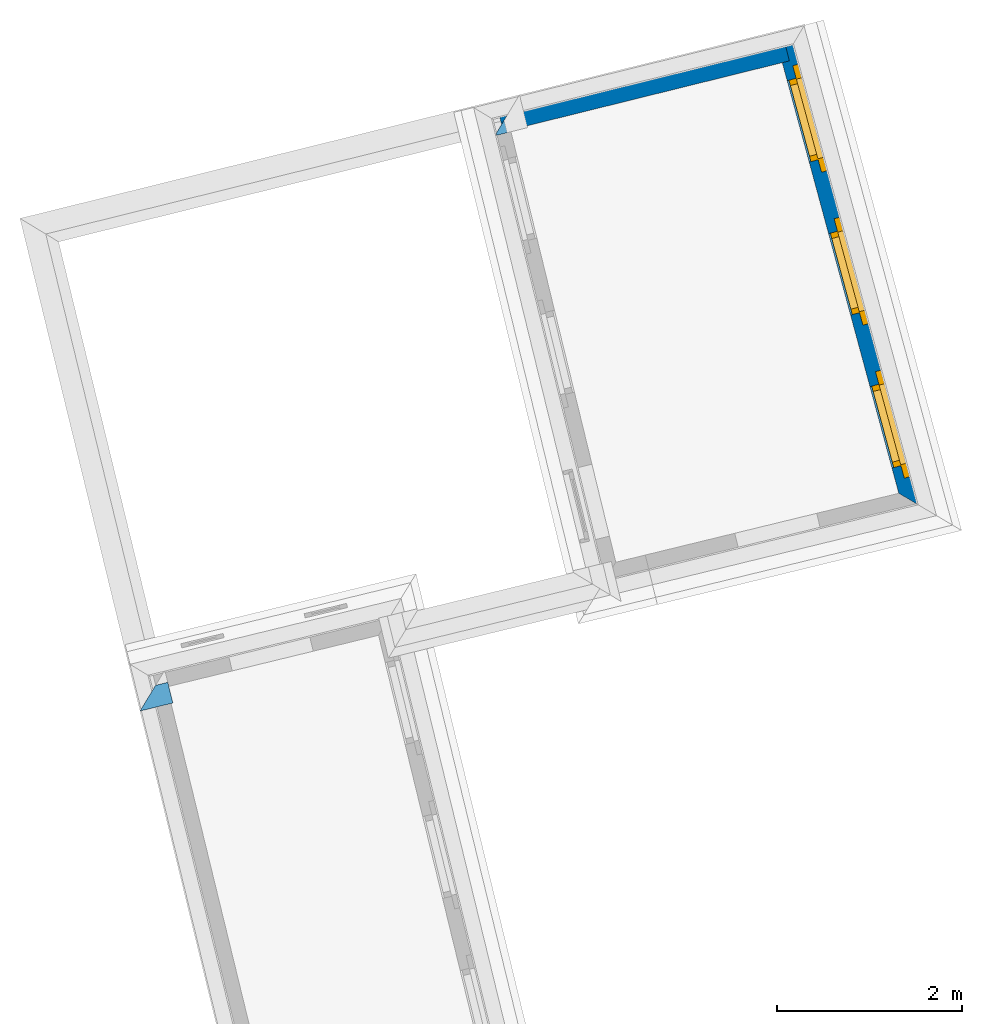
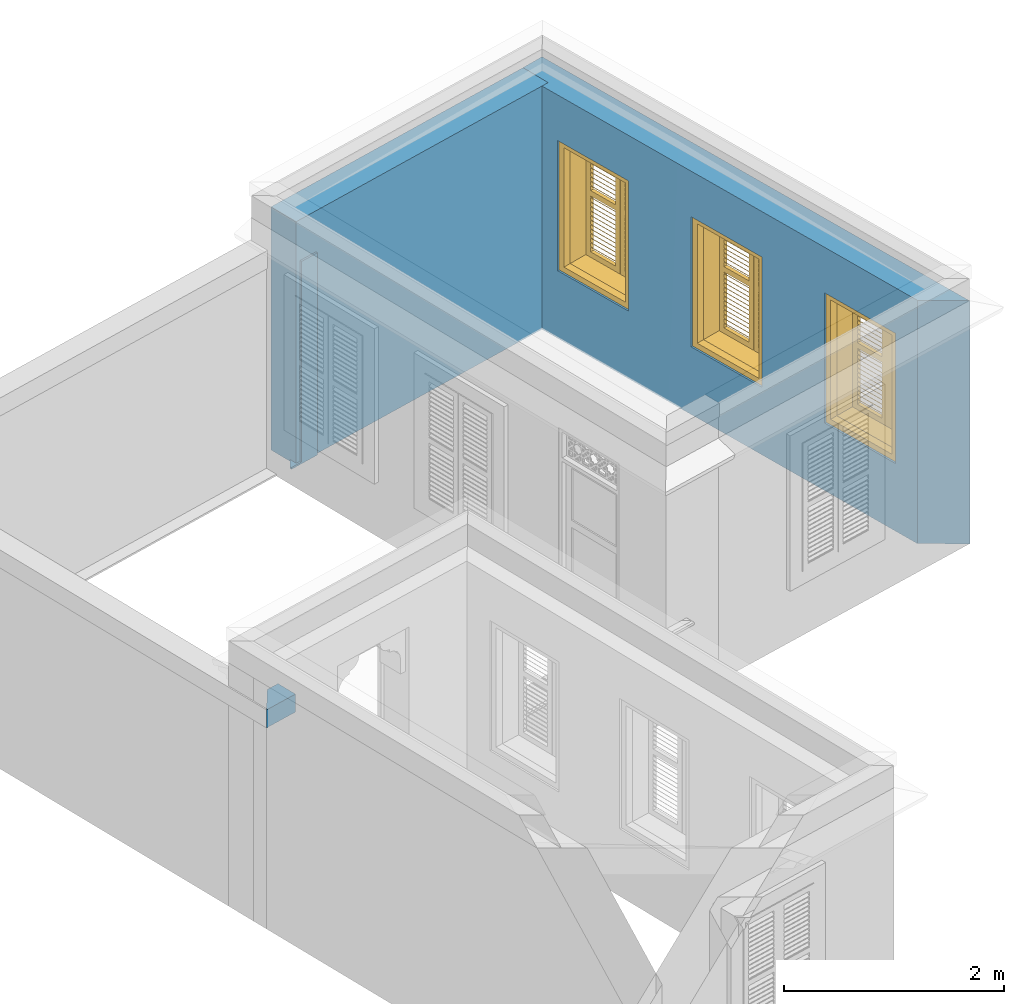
# One storey, part 5 of 7: 4 walls, 3 windows, 3 openings.
"""IFC4 building model written with IfcOpenShell, lengths in metres."""

from ifc_helpers import new_model, si_unit, frame, origin, origin_with_axes, place, context, subcontext, project, spatial, polyline, outline, extrude, clip, halfspace, faceted_brep, source, transform, mapped, material, layer, layer_set, layer_usage, material_profile, profile_set, profile_usage, type_object, type_shapes, element, fill, save


model = new_model("IFC4")

# Units and contexts
model_context = context("Model", 3, world=origin_with_axes())
body_context = subcontext(model_context, "Body", "Model", "MODEL_VIEW")
ifc_project = project(units=[si_unit("PLANEANGLEUNIT", "RADIAN"), si_unit("MASSUNIT", "GRAM", prefix="KILO"), si_unit("FORCEUNIT", "NEWTON", prefix="KILO"), si_unit("LENGTHUNIT", "METRE"), si_unit("AREAUNIT", "SQUARE_METRE"), si_unit("VOLUMEUNIT", "CUBIC_METRE")], contexts=[model_context, model_context])

# Site, building, storey
site_placement = place(None, origin_with_axes())
site = spatial("IfcSite", under=ifc_project, at=site_placement, Name="Site plot-4", CompositionType="ELEMENT")
building_placement = place(None, origin_with_axes())
building = spatial("IfcBuilding", under=site, at=building_placement, Name="Building plot-4", CompositionType="ELEMENT")
storey_placement = place(None, frame((0.0, 0.0, 5.4), z_axis=(0.0, 0.0, 1.0), x_axis=(1.0, 0.0, 0.0)))
storey = spatial("IfcBuildingStorey", under=building, at=storey_placement, Name="plot-4 2", CompositionType="ELEMENT", Elevation=5.4)

# Wall, openings, windows
ifc_material_1 = material(Name="Masonry")
ifc_layer_1 = layer(ifc_material_1, 0.33, ventilated=False)
ifc_layer_set_1 = layer_set([ifc_layer_1], Name="exterior_0.08_0.25")
ifc_layer_usage_1 = layer_usage(ifc_layer_set_1, "AXIS2", "POSITIVE", -0.25)
wall_type_1 = type_object("IfcWallType", Name="exterior_0.08_0.25", PredefinedType="SOLIDWALL", material=ifc_layer_set_1)
wall_1_placement = place(storey_placement, frame((26.6183209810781, 16.4019264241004, 0.0), z_axis=(0.0, 0.0, 1.0), x_axis=(-0.261170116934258, 0.965292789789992, 0.0)))
wall_1 = element("IfcWall", 1, at=wall_1_placement, inside=storey, type_object=wall_type_1, material=ifc_layer_usage_1, Name="exterior", context=body_context, shape_type="SweptSolid", body=[
    extrude(outline(polyline([(0.0820550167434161, 0.0799999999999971), (-0.256421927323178, -0.249999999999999), (5.22469834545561, -0.250000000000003), (5.22469834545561, 0.0799999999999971), (0.0820550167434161, 0.0799999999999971)])), origin_with_axes(), (0.0, 0.0, 1.0), 2.7),
])
opening_1_placement = place(wall_1_placement, frame((0.364698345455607, 0.0, 0.75)))
opening_1 = element("IfcOpeningElement", 2, at=opening_1_placement, cuts=wall_1, Name="My Opening", ObjectType="Opening", context=body_context, shape_type="SweptSolid", body=[
    extrude(outline(polyline([(0.0, -0.27), (0.909999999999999, -0.270000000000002), (0.910000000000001, 1.1), (1.99840144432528e-15, 1.1), (0.0, -0.27)])), origin_with_axes(), (0.0, 0.0, 1.0), 1.445),
])
opening_2_placement = place(wall_1_placement, frame((2.0746983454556, 0.0, 0.75)))
opening_2 = element("IfcOpeningElement", 3, at=opening_2_placement, cuts=wall_1, Name="My Opening", ObjectType="Opening", context=body_context, shape_type="SweptSolid", body=[
    extrude(outline(polyline([(0.0, -0.269999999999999), (0.91, -0.270000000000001), (0.910000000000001, 1.1), (1.77635683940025e-15, 1.1), (0.0, -0.269999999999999)])), origin_with_axes(), (0.0, 0.0, 1.0), 1.445),
])
opening_3_placement = place(wall_1_placement, frame((3.7846983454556, 0.0, 0.75)))
opening_3 = element("IfcOpeningElement", 4, at=opening_3_placement, cuts=wall_1, Name="My Opening", ObjectType="Opening", context=body_context, shape_type="SweptSolid", body=[
    extrude(outline(polyline([(0.0, -0.269999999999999), (0.91, -0.270000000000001), (0.910000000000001, 1.1), (1.77635683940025e-15, 1.1), (0.0, -0.269999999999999)])), origin_with_axes(), (0.0, 0.0, 1.0), 1.445),
])
window_type = type_object("IfcWindowType", Name="shuttered_shorter", PartitioningType="DOUBLE_PANEL_HORIZONTAL", PredefinedType="NOTDEFINED")
shared_shape = source(origin(), body_context, "Body", "Brep", [
    faceted_brep([(0.393, 0.0, 0.622), (0.074, 0.0, 0.622), (0.074, 0.0, 0.632), (0.393, 0.0, 0.632), (0.074, -0.04, 0.592), (0.393, -0.04, 0.592), (0.393, -0.04, 0.582), (0.074, -0.04, 0.582), (0.517, 0.0, 0.682), (0.836, 0.0, 0.682), (0.836, 0.0, 0.672), (0.517, 0.0, 0.672), (0.517, -0.04, 0.642), (0.836, -0.04, 0.642), (0.836, -0.04, 0.632), (0.517, -0.04, 0.632), (0.517, 0.0, 0.632), (0.836, 0.0, 0.632), (0.836, 0.0, 0.622), (0.517, 0.0, 0.622), (0.517, -0.04, 0.592), (0.836, -0.04, 0.592), (0.836, -0.04, 0.582), (0.517, -0.04, 0.582), (0.517, 0.0, 0.232), (0.836, 0.0, 0.232), (0.836, 0.0, 0.222), (0.517, 0.0, 0.222), (0.517, -0.04, 0.192), (0.836, -0.04, 0.192), (0.836, -0.04, 0.182), (0.517, -0.04, 0.182), (0.517, 0.0, 0.532), (0.836, 0.0, 0.532), (0.836, 0.0, 0.522), (0.517, 0.0, 0.522), (0.517, -0.04, 0.492), (0.836, -0.04, 0.492), (0.836, -0.04, 0.482), (0.517, -0.04, 0.482), (0.517, 0.0, 0.482), (0.836, 0.0, 0.482), (0.836, 0.0, 0.472), (0.517, 0.0, 0.472), (0.517, -0.04, 0.442), (0.836, -0.04, 0.442), (0.836, -0.04, 0.432), (0.517, -0.04, 0.432), (0.517, 0.0, 0.582), (0.836, 0.0, 0.582), (0.836, 0.0, 0.572), (0.517, 0.0, 0.572), (0.517, -0.04, 0.542), (0.836, -0.04, 0.542), (0.836, -0.04, 0.532), (0.517, -0.04, 0.532), (0.517, 0.0, 0.182), (0.836, 0.0, 0.182), (0.836, 0.0, 0.172), (0.517, 0.0, 0.172), (0.517, -0.04, 0.142), (0.836, -0.04, 0.142), (0.836, -0.04, 0.132), (0.517, -0.04, 0.132), (0.517, 0.0, 0.382), (0.836, 0.0, 0.382), (0.836, 0.0, 0.372), (0.517, 0.0, 0.372), (0.517, -0.04, 0.342), (0.836, -0.04, 0.342), (0.836, -0.04, 0.332), (0.517, -0.04, 0.332), (0.517, 0.0, 0.432), (0.836, 0.0, 0.432), (0.836, 0.0, 0.422), (0.517, 0.0, 0.422), (0.517, -0.04, 0.392), (0.836, -0.04, 0.392), (0.836, -0.04, 0.382), (0.517, -0.04, 0.382), (0.517, 0.0, 0.132), (0.836, 0.0, 0.132), (0.836, 0.0, 0.122), (0.517, 0.0, 0.122), (0.517, -0.04, 0.092), (0.836, -0.04, 0.092), (0.836, -0.04, 0.082), (0.517, -0.04, 0.082), (0.517, 0.0, 0.282), (0.836, 0.0, 0.282), (0.836, 0.0, 0.272), (0.517, 0.0, 0.272), (0.517, -0.04, 0.242), (0.836, -0.04, 0.242), (0.836, -0.04, 0.232), (0.517, -0.04, 0.232), (0.517, 0.0, 0.332), (0.836, 0.0, 0.332), (0.836, 0.0, 0.322), (0.517, 0.0, 0.322), (0.517, -0.04, 0.292), (0.836, -0.04, 0.292), (0.836, -0.04, 0.282), (0.517, -0.04, 0.282), (0.517, 0.0, 1.362667), (0.836, 0.0, 1.362667), (0.836, 0.0, 1.352667), (0.517, 0.0, 1.352667), (0.517, -0.04, 1.322667), (0.836, -0.04, 1.322667), (0.836, -0.04, 1.312667), (0.517, -0.04, 1.312667), (0.517, 0.0, 1.312667), (0.836, 0.0, 1.312667), (0.836, 0.0, 1.302667), (0.517, 0.0, 1.302667), (0.517, -0.04, 1.272667), (0.836, -0.04, 1.272667), (0.836, -0.04, 1.262667), (0.517, -0.04, 1.262667), (0.517, 0.0, 0.912667), (0.836, 0.0, 0.912667), (0.836, 0.0, 0.902667), (0.517, 0.0, 0.902667), (0.517, -0.04, 0.872667), (0.836, -0.04, 0.872667), (0.836, -0.04, 0.862667), (0.517, -0.04, 0.862667), (0.517, 0.0, 1.212667), (0.836, 0.0, 1.212667), (0.836, 0.0, 1.202667), (0.517, 0.0, 1.202667), (0.517, -0.04, 1.172667), (0.836, -0.04, 1.172667), (0.836, -0.04, 1.162667), (0.517, -0.04, 1.162667), (0.517, 0.0, 1.162667), (0.836, 0.0, 1.162667), (0.836, 0.0, 1.152667), (0.517, 0.0, 1.152667), (0.517, -0.04, 1.122667), (0.836, -0.04, 1.122667), (0.836, -0.04, 1.112667), (0.517, -0.04, 1.112667), (0.517, 0.0, 1.262667), (0.836, 0.0, 1.262667), (0.836, 0.0, 1.252667), (0.517, 0.0, 1.252667), (0.517, -0.04, 1.222667), (0.836, -0.04, 1.222667), (0.836, -0.04, 1.212667), (0.517, -0.04, 1.212667), (0.517, 0.0, 0.862667), (0.836, 0.0, 0.862667), (0.836, 0.0, 0.852667), (0.517, 0.0, 0.852667), (0.517, -0.04, 0.822667), (0.836, -0.04, 0.822667), (0.836, -0.04, 0.812667), (0.517, -0.04, 0.812667), (0.517, 0.0, 1.062667), (0.836, 0.0, 1.062667), (0.836, 0.0, 1.052667), (0.517, 0.0, 1.052667), (0.517, -0.04, 1.022667), (0.836, -0.04, 1.022667), (0.836, -0.04, 1.012667), (0.517, -0.04, 1.012667), (0.517, 0.0, 1.112667), (0.836, 0.0, 1.112667), (0.836, 0.0, 1.102667), (0.517, 0.0, 1.102667), (0.517, -0.04, 1.072667), (0.836, -0.04, 1.072667), (0.836, -0.04, 1.062667), (0.517, -0.04, 1.062667), (0.517, 0.0, 0.812667), (0.836, 0.0, 0.812667), (0.836, 0.0, 0.802667), (0.517, 0.0, 0.802667), (0.517, -0.04, 0.772667), (0.836, -0.04, 0.772667), (0.836, -0.04, 0.762667), (0.517, -0.04, 0.762667), (0.517, 0.0, 0.962667), (0.836, 0.0, 0.962667), (0.836, 0.0, 0.952667), (0.517, 0.0, 0.952667), (0.517, -0.04, 0.922667), (0.836, -0.04, 0.922667), (0.836, -0.04, 0.912667), (0.517, -0.04, 0.912667), (0.517, 0.0, 1.012667), (0.836, 0.0, 1.012667), (0.836, 0.0, 1.002667), (0.517, 0.0, 1.002667), (0.517, -0.04, 0.972667), (0.836, -0.04, 0.972667), (0.836, -0.04, 0.962667), (0.517, -0.04, 0.962667), (0.074, 0.0, 0.682), (0.393, 0.0, 0.682), (0.393, 0.0, 0.672), (0.074, 0.0, 0.672), (0.074, -0.04, 0.642), (0.393, -0.04, 0.642), (0.393, -0.04, 0.632), (0.074, -0.04, 0.632), (0.074, 0.0, 0.232), (0.393, 0.0, 0.232), (0.393, 0.0, 0.222), (0.074, 0.0, 0.222), (0.074, -0.04, 0.192), (0.393, -0.04, 0.192), (0.393, -0.04, 0.182), (0.074, -0.04, 0.182), (0.074, 0.0, 0.532), (0.393, 0.0, 0.532), (0.393, 0.0, 0.522), (0.074, 0.0, 0.522), (0.074, -0.04, 0.492), (0.393, -0.04, 0.492), (0.393, -0.04, 0.482), (0.074, -0.04, 0.482), (0.074, 0.0, 0.482), (0.393, 0.0, 0.482), (0.393, 0.0, 0.472), (0.074, 0.0, 0.472), (0.074, -0.04, 0.442), (0.393, -0.04, 0.442), (0.393, -0.04, 0.432), (0.074, -0.04, 0.432), (0.074, 0.0, 0.582), (0.393, 0.0, 0.582), (0.393, 0.0, 0.572), (0.074, 0.0, 0.572), (0.074, -0.04, 0.542), (0.393, -0.04, 0.542), (0.393, -0.04, 0.532), (0.074, -0.04, 0.532), (0.074, 0.0, 0.182), (0.393, 0.0, 0.182), (0.393, 0.0, 0.172), (0.074, 0.0, 0.172), (0.074, -0.04, 0.142), (0.393, -0.04, 0.142), (0.393, -0.04, 0.132), (0.074, -0.04, 0.132), (0.074, 0.0, 0.382), (0.393, 0.0, 0.382), (0.393, 0.0, 0.372), (0.074, 0.0, 0.372), (0.074, -0.04, 0.342), (0.393, -0.04, 0.342), (0.393, -0.04, 0.332), (0.074, -0.04, 0.332), (0.074, 0.0, 0.432), (0.393, 0.0, 0.432), (0.393, 0.0, 0.422), (0.074, 0.0, 0.422), (0.074, -0.04, 0.392), (0.393, -0.04, 0.392), (0.393, -0.04, 0.382), (0.074, -0.04, 0.382), (0.074, 0.0, 0.132), (0.393, 0.0, 0.132), (0.393, 0.0, 0.122), (0.074, 0.0, 0.122), (0.074, -0.04, 0.092), (0.393, -0.04, 0.092), (0.393, -0.04, 0.082), (0.074, -0.04, 0.082), (0.074, 0.0, 0.282), (0.393, 0.0, 0.282), (0.393, 0.0, 0.272), (0.074, 0.0, 0.272), (0.074, -0.04, 0.242), (0.393, -0.04, 0.242), (0.393, -0.04, 0.232), (0.074, -0.04, 0.232), (0.074, 0.0, 0.332), (0.393, 0.0, 0.332), (0.393, 0.0, 0.322), (0.074, 0.0, 0.322), (0.074, -0.04, 0.292), (0.393, -0.04, 0.292), (0.393, -0.04, 0.282), (0.074, -0.04, 0.282), (0.074, 0.0, 1.362667), (0.393, 0.0, 1.362667), (0.393, 0.0, 1.352667), (0.074, 0.0, 1.352667), (0.074, -0.04, 1.322667), (0.393, -0.04, 1.322667), (0.393, -0.04, 1.312667), (0.074, -0.04, 1.312667), (0.074, 0.0, 1.312667), (0.393, 0.0, 1.312667), (0.393, 0.0, 1.302667), (0.074, 0.0, 1.302667), (0.074, -0.04, 1.272667), (0.393, -0.04, 1.272667), (0.393, -0.04, 1.262667), (0.074, -0.04, 1.262667), (0.074, 0.0, 0.912667), (0.393, 0.0, 0.912667), (0.393, 0.0, 0.902667), (0.074, 0.0, 0.902667), (0.074, -0.04, 0.872667), (0.393, -0.04, 0.872667), (0.393, -0.04, 0.862667), (0.074, -0.04, 0.862667), (0.074, 0.0, 1.212667), (0.393, 0.0, 1.212667), (0.393, 0.0, 1.202667), (0.074, 0.0, 1.202667), (0.074, -0.04, 1.172667), (0.393, -0.04, 1.172667), (0.393, -0.04, 1.162667), (0.074, -0.04, 1.162667), (0.074, 0.0, 1.162667), (0.393, 0.0, 1.162667), (0.393, 0.0, 1.152667), (0.074, 0.0, 1.152667), (0.074, -0.04, 1.122667), (0.393, -0.04, 1.122667), (0.393, -0.04, 1.112667), (0.074, -0.04, 1.112667), (0.074, 0.0, 1.262667), (0.393, 0.0, 1.262667), (0.393, 0.0, 1.252667), (0.074, 0.0, 1.252667), (0.074, -0.04, 1.222667), (0.393, -0.04, 1.222667), (0.393, -0.04, 1.212667), (0.074, -0.04, 1.212667), (0.074, 0.0, 0.862667), (0.393, 0.0, 0.862667), (0.393, 0.0, 0.852667), (0.074, 0.0, 0.852667), (0.074, -0.04, 0.822667), (0.393, -0.04, 0.822667), (0.393, -0.04, 0.812667), (0.074, -0.04, 0.812667), (0.074, 0.0, 1.062667), (0.393, 0.0, 1.062667), (0.393, 0.0, 1.052667), (0.074, 0.0, 1.052667), (0.074, -0.04, 1.022667), (0.393, -0.04, 1.022667), (0.393, -0.04, 1.012667), (0.074, -0.04, 1.012667), (0.074, 0.0, 1.112667), (0.393, 0.0, 1.112667), (0.393, 0.0, 1.102667), (0.074, 0.0, 1.102667), (0.074, -0.04, 1.072667), (0.393, -0.04, 1.072667), (0.393, -0.04, 1.062667), (0.074, -0.04, 1.062667), (0.074, 0.0, 0.812667), (0.393, 0.0, 0.812667), (0.393, 0.0, 0.802667), (0.074, 0.0, 0.802667), (0.074, -0.04, 0.772667), (0.393, -0.04, 0.772667), (0.393, -0.04, 0.762667), (0.074, -0.04, 0.762667), (0.074, 0.0, 0.962667), (0.393, 0.0, 0.962667), (0.393, 0.0, 0.952667), (0.074, 0.0, 0.952667), (0.074, -0.04, 0.922667), (0.393, -0.04, 0.922667), (0.393, -0.04, 0.912667), (0.074, -0.04, 0.912667), (0.074, 0.0, 1.012667), (0.393, 0.0, 1.012667), (0.393, 0.0, 1.002667), (0.074, 0.0, 1.002667), (0.074, -0.04, 0.972667), (0.393, -0.04, 0.972667), (0.393, -0.04, 0.962667), (0.074, -0.04, 0.962667), (0.517, -0.04, 0.072), (0.457, -0.04, 0.012), (0.896, -0.04, 0.012), (0.836, -0.04, 0.072), (0.457, -0.04, 0.692667), (0.517, -0.04, 0.692667), (0.457, 0.0, 0.012), (0.896, 0.0, 0.012), (0.836, -0.04, 0.692667), (0.896, -0.04, 0.692667), (0.836, 0.0, 0.072), (0.517, 0.0, 0.072), (0.457, 0.0, 0.692667), (0.517, 0.0, 0.692667), (0.517, -0.04, 0.752666), (0.457, -0.04, 0.752666), (0.896, 0.0, 0.692667), (0.836, 0.0, 0.692667), (0.836, -0.04, 0.752666), (0.896, -0.04, 0.752666), (0.457, 0.0, 0.752666), (0.457, -0.04, 1.433333), (0.517, -0.04, 1.373333), (0.896, 0.0, 0.752666), (0.836, -0.04, 1.373333), (0.896, -0.04, 1.433333), (0.457, 0.0, 1.433333), (0.517, 0.0, 0.752666), (0.836, 0.0, 0.752666), (0.517, 0.0, 1.373333), (0.896, 0.0, 1.433333), (0.836, 0.0, 1.373333), (0.074, -0.04, 0.072), (0.014, -0.04, 0.012), (0.453, -0.04, 0.012), (0.393, -0.04, 0.072), (0.014, -0.04, 0.692667), (0.074, -0.04, 0.692667), (0.014, 0.0, 0.012), (0.453, 0.0, 0.012), (0.393, -0.04, 0.692667), (0.453, -0.04, 0.692667), (0.393, 0.0, 0.072), (0.074, 0.0, 0.072), (0.014, 0.0, 0.692667), (0.074, 0.0, 0.692667), (0.074, -0.04, 0.752666), (0.014, -0.04, 0.752666), (0.453, 0.0, 0.692667), (0.393, 0.0, 0.692667), (0.393, -0.04, 0.752666), (0.453, -0.04, 0.752666), (0.014, 0.0, 0.752666), (0.014, -0.04, 1.433333), (0.074, -0.04, 1.373333), (0.453, 0.0, 0.752666), (0.393, -0.04, 1.373333), (0.453, -0.04, 1.433333), (0.014, 0.0, 1.433333), (0.074, 0.0, 0.752666), (0.393, 0.0, 0.752666), (0.074, 0.0, 1.373333), (0.453, 0.0, 1.433333), (0.393, 0.0, 1.373333), (0.0, 0.33, 1.445), (0.91, 0.33, 1.445), (0.85, 0.33, 1.385), (0.06, 0.33, 1.385), (0.91, 0.25, 1.445), (0.0, 0.25, 1.445), (0.91, 0.25, 1.445), (0.85, 0.33, 0.06), (0.91, 0.33, 0.0), (0.85, 0.25, 1.385), (0.06, 0.25, 1.385), (0.0, 0.33, 0.0), (0.06, 0.33, 0.06), (0.0, 0.25, 0.0), (0.91, 0.25, 0.0), (0.85, 0.25, 0.06), (0.06, 0.25, 0.06), (1.05, 0.25, 1.585), (-0.14, 0.25, 1.585), (-0.14, -0.03, 1.585), (1.05, -0.03, 1.585), (0.9, -0.03, 1.435), (0.01, -0.03, 1.435), (0.01, 0.25, 1.435), (0.9, 0.25, 1.435), (0.9, 0.25, 0.01), (0.9, -0.03, 0.01), (1.05, -0.03, -0.14), (1.05, 0.25, -0.14), (0.01, -0.03, 0.01), (0.01, 0.25, 0.01), (-0.14, -0.03, -0.14), (-0.14, 0.25, -0.14)], [[[0, 1, 2, 3]], [[4, 5, 3, 2]], [[5, 6, 0, 3]], [[1, 0, 6, 7]], [[2, 1, 7, 4]], [[5, 4, 7, 6]], [[8, 9, 10, 11]], [[12, 13, 9, 8]], [[13, 14, 10, 9]], [[14, 15, 11, 10]], [[15, 12, 8, 11]], [[13, 12, 15, 14]], [[16, 17, 18, 19]], [[20, 21, 17, 16]], [[21, 22, 18, 17]], [[22, 23, 19, 18]], [[23, 20, 16, 19]], [[21, 20, 23, 22]], [[24, 25, 26, 27]], [[28, 29, 25, 24]], [[29, 30, 26, 25]], [[30, 31, 27, 26]], [[31, 28, 24, 27]], [[29, 28, 31, 30]], [[32, 33, 34, 35]], [[36, 37, 33, 32]], [[37, 38, 34, 33]], [[38, 39, 35, 34]], [[39, 36, 32, 35]], [[37, 36, 39, 38]], [[40, 41, 42, 43]], [[44, 45, 41, 40]], [[45, 46, 42, 41]], [[46, 47, 43, 42]], [[47, 44, 40, 43]], [[45, 44, 47, 46]], [[48, 49, 50, 51]], [[52, 53, 49, 48]], [[53, 54, 50, 49]], [[54, 55, 51, 50]], [[55, 52, 48, 51]], [[53, 52, 55, 54]], [[56, 57, 58, 59]], [[60, 61, 57, 56]], [[61, 62, 58, 57]], [[62, 63, 59, 58]], [[63, 60, 56, 59]], [[61, 60, 63, 62]], [[64, 65, 66, 67]], [[68, 69, 65, 64]], [[69, 70, 66, 65]], [[70, 71, 67, 66]], [[71, 68, 64, 67]], [[69, 68, 71, 70]], [[72, 73, 74, 75]], [[76, 77, 73, 72]], [[77, 78, 74, 73]], [[78, 79, 75, 74]], [[79, 76, 72, 75]], [[77, 76, 79, 78]], [[80, 81, 82, 83]], [[84, 85, 81, 80]], [[85, 86, 82, 81]], [[86, 87, 83, 82]], [[87, 84, 80, 83]], [[85, 84, 87, 86]], [[88, 89, 90, 91]], [[92, 93, 89, 88]], [[93, 94, 90, 89]], [[94, 95, 91, 90]], [[95, 92, 88, 91]], [[93, 92, 95, 94]], [[96, 97, 98, 99]], [[100, 101, 97, 96]], [[101, 102, 98, 97]], [[102, 103, 99, 98]], [[103, 100, 96, 99]], [[101, 100, 103, 102]], [[104, 105, 106, 107]], [[108, 109, 105, 104]], [[109, 110, 106, 105]], [[110, 111, 107, 106]], [[111, 108, 104, 107]], [[109, 108, 111, 110]], [[112, 113, 114, 115]], [[116, 117, 113, 112]], [[117, 118, 114, 113]], [[118, 119, 115, 114]], [[119, 116, 112, 115]], [[117, 116, 119, 118]], [[120, 121, 122, 123]], [[124, 125, 121, 120]], [[125, 126, 122, 121]], [[126, 127, 123, 122]], [[127, 124, 120, 123]], [[125, 124, 127, 126]], [[128, 129, 130, 131]], [[132, 133, 129, 128]], [[133, 134, 130, 129]], [[134, 135, 131, 130]], [[135, 132, 128, 131]], [[133, 132, 135, 134]], [[136, 137, 138, 139]], [[140, 141, 137, 136]], [[141, 142, 138, 137]], [[142, 143, 139, 138]], [[139, 143, 140, 136]], [[141, 140, 143, 142]], [[144, 145, 146, 147]], [[148, 149, 145, 144]], [[149, 150, 146, 145]], [[150, 151, 147, 146]], [[151, 148, 144, 147]], [[149, 148, 151, 150]], [[152, 153, 154, 155]], [[156, 157, 153, 152]], [[157, 158, 154, 153]], [[158, 159, 155, 154]], [[159, 156, 152, 155]], [[157, 156, 159, 158]], [[160, 161, 162, 163]], [[164, 165, 161, 160]], [[165, 166, 162, 161]], [[166, 167, 163, 162]], [[167, 164, 160, 163]], [[165, 164, 167, 166]], [[168, 169, 170, 171]], [[172, 173, 169, 168]], [[173, 174, 170, 169]], [[174, 175, 171, 170]], [[175, 172, 168, 171]], [[173, 172, 175, 174]], [[176, 177, 178, 179]], [[180, 181, 177, 176]], [[181, 182, 178, 177]], [[182, 183, 179, 178]], [[183, 180, 176, 179]], [[181, 180, 183, 182]], [[184, 185, 186, 187]], [[188, 189, 185, 184]], [[189, 190, 186, 185]], [[190, 191, 187, 186]], [[191, 188, 184, 187]], [[189, 188, 191, 190]], [[192, 193, 194, 195]], [[196, 197, 193, 192]], [[197, 198, 194, 193]], [[198, 199, 195, 194]], [[199, 196, 192, 195]], [[197, 196, 199, 198]], [[200, 201, 202, 203]], [[204, 205, 201, 200]], [[205, 206, 202, 201]], [[206, 207, 203, 202]], [[207, 204, 200, 203]], [[205, 204, 207, 206]], [[208, 209, 210, 211]], [[212, 213, 209, 208]], [[213, 214, 210, 209]], [[214, 215, 211, 210]], [[215, 212, 208, 211]], [[213, 212, 215, 214]], [[216, 217, 218, 219]], [[220, 221, 217, 216]], [[221, 222, 218, 217]], [[222, 223, 219, 218]], [[223, 220, 216, 219]], [[221, 220, 223, 222]], [[224, 225, 226, 227]], [[228, 229, 225, 224]], [[229, 230, 226, 225]], [[230, 231, 227, 226]], [[231, 228, 224, 227]], [[229, 228, 231, 230]], [[232, 233, 234, 235]], [[236, 237, 233, 232]], [[237, 238, 234, 233]], [[238, 239, 235, 234]], [[239, 236, 232, 235]], [[237, 236, 239, 238]], [[240, 241, 242, 243]], [[244, 245, 241, 240]], [[245, 246, 242, 241]], [[246, 247, 243, 242]], [[247, 244, 240, 243]], [[245, 244, 247, 246]], [[248, 249, 250, 251]], [[252, 253, 249, 248]], [[253, 254, 250, 249]], [[254, 255, 251, 250]], [[255, 252, 248, 251]], [[253, 252, 255, 254]], [[256, 257, 258, 259]], [[260, 261, 257, 256]], [[261, 262, 258, 257]], [[262, 263, 259, 258]], [[263, 260, 256, 259]], [[261, 260, 263, 262]], [[264, 265, 266, 267]], [[268, 269, 265, 264]], [[269, 270, 266, 265]], [[270, 271, 267, 266]], [[271, 268, 264, 267]], [[269, 268, 271, 270]], [[272, 273, 274, 275]], [[276, 277, 273, 272]], [[277, 278, 274, 273]], [[278, 279, 275, 274]], [[279, 276, 272, 275]], [[277, 276, 279, 278]], [[280, 281, 282, 283]], [[284, 285, 281, 280]], [[285, 286, 282, 281]], [[286, 287, 283, 282]], [[287, 284, 280, 283]], [[285, 284, 287, 286]], [[288, 289, 290, 291]], [[292, 293, 289, 288]], [[293, 294, 290, 289]], [[294, 295, 291, 290]], [[295, 292, 288, 291]], [[293, 292, 295, 294]], [[296, 297, 298, 299]], [[300, 301, 297, 296]], [[301, 302, 298, 297]], [[302, 303, 299, 298]], [[303, 300, 296, 299]], [[301, 300, 303, 302]], [[304, 305, 306, 307]], [[308, 309, 305, 304]], [[309, 310, 306, 305]], [[310, 311, 307, 306]], [[311, 308, 304, 307]], [[309, 308, 311, 310]], [[312, 313, 314, 315]], [[316, 317, 313, 312]], [[317, 318, 314, 313]], [[318, 319, 315, 314]], [[319, 316, 312, 315]], [[317, 316, 319, 318]], [[320, 321, 322, 323]], [[324, 325, 321, 320]], [[325, 326, 322, 321]], [[326, 327, 323, 322]], [[327, 324, 320, 323]], [[325, 324, 327, 326]], [[328, 329, 330, 331]], [[332, 333, 329, 328]], [[333, 334, 330, 329]], [[334, 335, 331, 330]], [[335, 332, 328, 331]], [[333, 332, 335, 334]], [[336, 337, 338, 339]], [[340, 341, 337, 336]], [[341, 342, 338, 337]], [[342, 343, 339, 338]], [[343, 340, 336, 339]], [[341, 340, 343, 342]], [[344, 345, 346, 347]], [[348, 349, 345, 344]], [[349, 350, 346, 345]], [[350, 351, 347, 346]], [[351, 348, 344, 347]], [[349, 348, 351, 350]], [[352, 353, 354, 355]], [[356, 357, 353, 352]], [[357, 358, 354, 353]], [[358, 359, 355, 354]], [[359, 356, 352, 355]], [[357, 356, 359, 358]], [[360, 361, 362, 363]], [[364, 365, 361, 360]], [[365, 366, 362, 361]], [[366, 367, 363, 362]], [[367, 364, 360, 363]], [[365, 364, 367, 366]], [[368, 369, 370, 371]], [[372, 373, 369, 368]], [[373, 374, 370, 369]], [[374, 375, 371, 370]], [[375, 372, 368, 371]], [[373, 372, 375, 374]], [[376, 377, 378, 379]], [[380, 381, 377, 376]], [[381, 382, 378, 377]], [[382, 383, 379, 378]], [[383, 380, 376, 379]], [[381, 380, 383, 382]], [[384, 385, 386, 387]], [[388, 385, 384, 389]], [[390, 391, 386, 385]], [[392, 387, 386, 393]], [[384, 387, 394, 395]], [[390, 385, 388, 396]], [[389, 384, 395, 397]], [[389, 398, 399, 388]], [[390, 395, 394, 391]], [[400, 393, 386, 391]], [[387, 392, 401, 394]], [[402, 392, 393, 403]], [[396, 388, 399, 404]], [[390, 396, 397, 395]], [[392, 389, 397, 401]], [[398, 389, 392, 402]], [[405, 399, 398, 406]], [[394, 401, 400, 391]], [[407, 403, 393, 400]], [[408, 402, 403, 409]], [[404, 399, 405, 410]], [[411, 397, 396, 404]], [[397, 411, 412, 401]], [[398, 402, 412, 411]], [[406, 398, 411, 413]], [[405, 406, 408, 409]], [[401, 412, 407, 400]], [[414, 409, 403, 407]], [[402, 408, 415, 412]], [[405, 409, 414, 410]], [[404, 410, 413, 411]], [[408, 406, 413, 415]], [[412, 415, 414, 407]], [[413, 410, 414, 415]], [[416, 417, 418, 419]], [[420, 417, 416, 421]], [[422, 423, 418, 417]], [[424, 419, 418, 425]], [[416, 419, 426, 427]], [[422, 417, 420, 428]], [[421, 416, 427, 429]], [[421, 430, 431, 420]], [[422, 427, 426, 423]], [[432, 425, 418, 423]], [[419, 424, 433, 426]], [[434, 424, 425, 435]], [[428, 420, 431, 436]], [[422, 428, 429, 427]], [[424, 421, 429, 433]], [[430, 421, 424, 434]], [[437, 431, 430, 438]], [[426, 433, 432, 423]], [[439, 435, 425, 432]], [[440, 434, 435, 441]], [[436, 431, 437, 442]], [[443, 429, 428, 436]], [[429, 443, 444, 433]], [[430, 434, 444, 443]], [[438, 430, 443, 445]], [[437, 438, 440, 441]], [[433, 444, 439, 432]], [[446, 441, 435, 439]], [[434, 440, 447, 444]], [[437, 441, 446, 442]], [[436, 442, 445, 443]], [[440, 438, 445, 447]], [[444, 447, 446, 439]], [[445, 442, 446, 447]], [[448, 449, 450, 451]], [[452, 449, 448]], [[448, 453, 454]], [[448, 454, 452]], [[455, 450, 449, 456]], [[451, 450, 457, 458]], [[459, 448, 451, 460]], [[448, 459, 461, 453]], [[454, 453, 458, 457]], [[462, 452, 454]], [[454, 457, 463]], [[454, 463, 462]], [[456, 449, 452, 462]], [[450, 455, 463, 457]], [[456, 459, 460, 455]], [[460, 451, 458, 464]], [[459, 456, 462, 461]], [[464, 458, 453, 461]], [[461, 462, 463, 464]], [[455, 460, 464, 463]], [[465, 466, 467, 468]], [[469, 470, 471, 472]], [[473, 474, 469, 472]], [[465, 468, 475, 476]], [[470, 477, 478, 471]], [[474, 473, 478, 477]], [[474, 477, 479, 475]], [[470, 467, 479, 477]], [[470, 469, 468, 467]], [[474, 475, 468, 469]], [[471, 478, 480, 466]], [[473, 472, 465, 476]], [[473, 476, 480, 478]], [[466, 465, 472, 471]], [[480, 476, 475, 479]], [[480, 479, 467, 466]]]),
])
type_shapes(window_type, [shared_shape])
window_1_placement = place(storey_placement, frame((26.783701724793, 16.8244830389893, 0.75), z_axis=(0.0, 0.0, 1.0), x_axis=(-0.237664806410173, 0.878416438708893, 0.0)))
window_1 = element("IfcWindow", 5, at=window_1_placement, inside=storey, type_object=window_type, Name="bedroom outside window", OverallHeight=1.445, OverallWidth=0.91, context=body_context, shape_type="MappedRepresentation", body=[
    mapped(shared_shape, transform((0.0, 0.0, 0.0), scale=1.0)),
])
fill(opening_1, window_1)
window_2_placement = place(storey_placement, frame((26.3371008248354, 18.4751337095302, 0.75), z_axis=(0.0, 0.0, 1.0), x_axis=(-0.237664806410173, 0.878416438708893, 0.0)))
window_2 = element("IfcWindow", 6, at=window_2_placement, inside=storey, type_object=window_type, Name="bedroom outside window", OverallHeight=1.445, OverallWidth=0.91, context=body_context, shape_type="MappedRepresentation", body=[
    mapped(shared_shape, transform((0.0, 0.0, 0.0), scale=1.0)),
])
fill(opening_2, window_2)
window_3_placement = place(storey_placement, frame((25.8904999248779, 20.1257843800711, 0.75), z_axis=(0.0, 0.0, 1.0), x_axis=(-0.237664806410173, 0.878416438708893, 0.0)))
window_3 = element("IfcWindow", 7, at=window_3_placement, inside=storey, type_object=window_type, Name="bedroom outside window", OverallHeight=1.445, OverallWidth=0.91, context=body_context, shape_type="MappedRepresentation", body=[
    mapped(shared_shape, transform((0.0, 0.0, 0.0), scale=1.0)),
])
fill(opening_3, window_3)

# Walls
ifc_material_2 = material(Name="Masonry")
ifc_layer_2 = layer(ifc_material_2, 0.33, ventilated=False)
ifc_layer_set_2 = layer_set([ifc_layer_2], Name="party_0.08_0.25")
ifc_layer_usage_2 = layer_usage(ifc_layer_set_2, "AXIS2", "POSITIVE", -0.25)
wall_type_2 = type_object("IfcWallType", Name="party_0.08_0.25", PredefinedType="SOLIDWALL", material=ifc_layer_set_2)
wall_2_placement = place(storey_placement, frame((25.3190784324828, 21.2039668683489, 0.0), z_axis=(0.0, 0.0, 1.0), x_axis=(-0.970711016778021, -0.240250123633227, 0.0)))
element("IfcWall", 8, at=wall_2_placement, inside=storey, type_object=wall_type_2, material=ifc_layer_usage_2, Name="party", context=body_context, shape_type="SweptSolid", body=[
    extrude(outline(polyline([(-1.15156413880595e-15, 0.0800000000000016), (6.8144189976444e-16, -0.250000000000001), (3.17907598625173, -0.250000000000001), (3.17907598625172, 0.0800000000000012), (-1.15156413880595e-15, 0.0800000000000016)])), origin_with_axes(), (0.0, 0.0, 1.0), 2.7),
])
ifc_material_profile_1 = material_profile(None, outline(polyline([(0.25, 0.0), (0.25, 2.245), (0.05, 2.245), (0.05, 0.02), (-0.08, 0.02), (-0.08, 0.0), (0.25, 0.0)])))
ifc_profile_set_1 = profile_set([ifc_material_profile_1])
ifc_profile_usage_1 = profile_usage(ifc_profile_set_1)
wall_type_3 = type_object("IfcWallType", Name="parapet party_0", PredefinedType="PARAPET", material=ifc_profile_set_1)
wall_3_placement = place(storey_placement, frame((21.9928642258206, 21.4109044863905, 0.0), z_axis=(0.240250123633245, -0.970711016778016, 0.0), x_axis=(0.970711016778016, 0.240250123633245, 0.0)))
element("IfcWall", 9, at=wall_3_placement, inside=storey, type_object=wall_type_3, material=ifc_profile_usage_1, Name="parapet party_0", context=body_context, shape_type="Clipping", body=[
    clip(clip(extrude(outline(polyline([(0.25, 0.0), (0.25, 2.245), (0.05, 2.245), (0.05, 0.02), (-0.08, 0.02), (-0.08, 0.0), (0.25, 0.0)])), origin_with_axes(), (0.0, 0.0, 1.0), 2.1), halfspace(frame((0.0, 0.0, 1.1), z_axis=(-9.49410759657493e-16, 0.0, -1.0), x_axis=(0.0, 1.0, 0.0)), True)), halfspace(frame((0.0, 0.0, 1.0), z_axis=(-0.70710678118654, 0.0, -0.707106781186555), x_axis=(0.0, 1.0, 0.0)), False)),
])
ifc_material_profile_2 = material_profile(None, outline(polyline([(0.265, 2.245), (0.265, 2.445), (0.035, 2.445), (0.035, 2.245), (0.265, 2.245)])))
ifc_profile_set_2 = profile_set([ifc_material_profile_2])
ifc_profile_usage_2 = profile_usage(ifc_profile_set_2)
wall_type_4 = type_object("IfcWallType", Name="parapet party_1", PredefinedType="PARAPET", material=ifc_profile_set_2)
wall_4_placement = place(storey_placement, frame((19.5944775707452, 14.6914578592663, 0.0), z_axis=(-0.971605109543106, -0.23660834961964, 0.0), x_axis=(0.23660834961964, -0.971605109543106, 0.0)))
element("IfcWall", 10, at=wall_4_placement, inside=storey, type_object=wall_type_4, material=ifc_profile_usage_2, Name="parapet party_1", context=body_context, shape_type="Clipping", body=[
    clip(clip(extrude(outline(polyline([(0.265, 2.245), (0.265, 2.445), (0.035, 2.445), (0.035, 2.245), (0.265, 2.245)])), origin_with_axes(), (0.0, 0.0, 1.0), 2.1), halfspace(frame((0.0, 0.0, 1.1), z_axis=(0.70710678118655, 0.0, -0.707106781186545), x_axis=(0.0, 1.0, 0.0)), True)), halfspace(frame((0.0, 0.0, 1.0), z_axis=(-6.12323399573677e-17, 0.0, -1.0), x_axis=(0.0, 1.0, 0.0)), False)),
])

save(model, "model.ifc")
